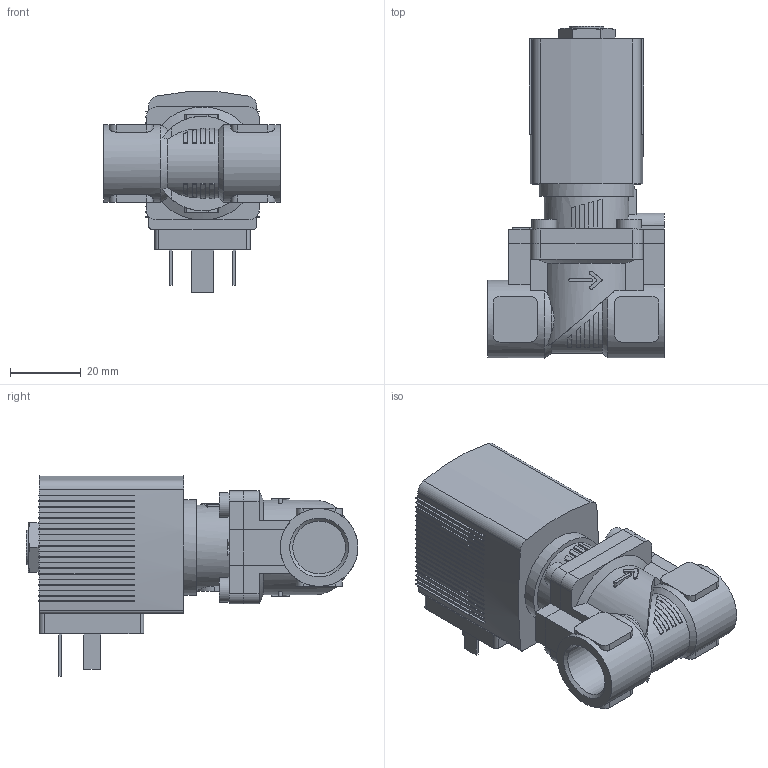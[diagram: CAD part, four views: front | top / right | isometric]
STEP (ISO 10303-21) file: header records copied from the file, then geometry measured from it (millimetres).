
FILE_DESCRIPTION(/* description */ ('STEP AP214'),/* implementation_level */ '2;1');
FILE_NAME(/* name */ '6281-351163-2_2-Way_Solenoid_Valve__Servo-assisted__General_Purpose',/* time_stamp */ '2024-05-20T11:17:07+02:00',/* author */ ('License CC BY-ND 4.0'),/* organization */ ('CADENAS'),/* preprocessor_version */ 'ST-DEVELOPER v19.3',/* originating_system */ 'PARTsolutions',/* authorisation */ ' ');
FILE_SCHEMA (('AUTOMOTIVE_DESIGN {1 0 10303 214 3 1 1}'));
Length unit declared in the file: millimetre
Products named in the file (4): 6281-351163-2/2-Way Solenoid Valve, Servo-assisted, General Purpose; 5281ev100MS2/2-Wege-Magnetventil mit Servomembran-Deckel   ; 6213-10G3/8MS-Gehaeuse-; AC10ex-5OO-Plan-Coil
Assembly tree (3 placements, depth 2):
  6281-351163-2/2-Way Solenoid Valve, Servo-assisted, General Purpose
    5281ev100MS2/2-Wege-Magnetventil mit Servomembran-Deckel   
    6213-10G3/8MS-Gehaeuse-
    AC10ex-5OO-Plan-Coil
Bounding box: 50 x 94 x 56.84 mm (x, y, z)
Volume: 91160.8 mm3; surface area: 23101.6 mm2
Topology: 3 solids, 3 shells, 522 faces, 1444 edges, 958 vertices
Faces by surface type: plane 424, cylinder 85, cone 13
Full cylindrical faces by diameter (mm): 2.013 x1, 7 x4, 9.74 x1, 14.95 x2, 22 x1, 27 x1
Entity records: 19192 total; most frequent: CARTESIAN_POINT 3142, ORIENTED_EDGE 2848, DIRECTION 2724, EDGE_CURVE 1424, LINE 1050, VECTOR 1050, VERTEX_POINT 951, AXIS2_PLACEMENT_3D 837
